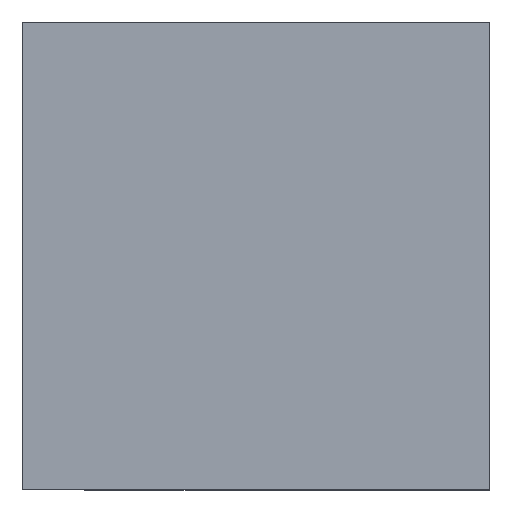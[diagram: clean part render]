
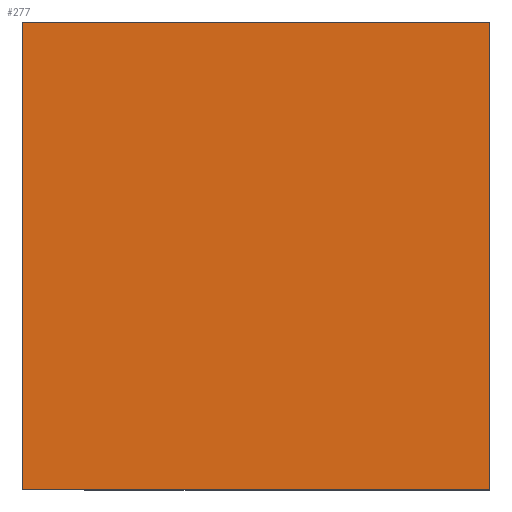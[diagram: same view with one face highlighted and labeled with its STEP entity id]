
A CAD part, top view. The second image highlights one B-rep face of the part: STEP entity #277.
In plain terms, the highlighted planar face has unit normal (0, 0, 1).
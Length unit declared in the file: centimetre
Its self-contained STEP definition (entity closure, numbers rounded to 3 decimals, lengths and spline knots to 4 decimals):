
#1 = CARTESIAN_POINT ( 'NONE',  ( 0., 1000., 1000. ) ) ;
#14 = DIRECTION ( 'NONE',  ( 1., 0., 0. ) ) ;
#60 = VECTOR ( 'NONE', #14, 100. ) ;
#64 = LINE ( 'NONE', #203, #517 ) ;
#109 = LINE ( 'NONE', #292, #60 ) ;
#121 = EDGE_CURVE ( 'NONE', #359, #349, #64, .T. ) ;
#122 = PLANE ( 'NONE',  #205 ) ;
#125 = VERTEX_POINT ( 'NONE', #491 ) ;
#153 = VERTEX_POINT ( 'NONE', #573 ) ;
#184 = LINE ( 'NONE', #283, #206 ) ;
#203 = CARTESIAN_POINT ( 'NONE',  ( 1000., 1000., 1000. ) ) ;
#205 = AXIS2_PLACEMENT_3D ( 'NONE', #497, #356, #260 ) ;
#206 = VECTOR ( 'NONE', #233, 100. ) ;
#207 = EDGE_CURVE ( 'NONE', #125, #359, #109, .T. ) ;
#221 = ORIENTED_EDGE ( 'NONE', *, *, #121, .T. ) ;
#233 = DIRECTION ( 'NONE',  ( 0., -1., 0. ) ) ;
#260 = DIRECTION ( 'NONE',  ( 1., 0., 0. ) ) ;
#277 = ADVANCED_FACE ( 'NONE', ( #289 ), #122, .T. ) ;
#283 = CARTESIAN_POINT ( 'NONE',  ( 0., 1000., 1000. ) ) ;
#289 = FACE_OUTER_BOUND ( 'NONE', #430, .T. ) ;
#292 = CARTESIAN_POINT ( 'NONE',  ( 0., 0., 1000. ) ) ;
#297 = ORIENTED_EDGE ( 'NONE', *, *, #406, .T. ) ;
#303 = ORIENTED_EDGE ( 'NONE', *, *, #207, .T. ) ;
#332 = VECTOR ( 'NONE', #563, 100. ) ;
#349 = VERTEX_POINT ( 'NONE', #400 ) ;
#353 = LINE ( 'NONE', #1, #332 ) ;
#356 = DIRECTION ( 'NONE',  ( 0., 0., 1. ) ) ;
#359 = VERTEX_POINT ( 'NONE', #594 ) ;
#368 = EDGE_CURVE ( 'NONE', #349, #153, #353, .T. ) ;
#400 = CARTESIAN_POINT ( 'NONE',  ( 1000., 1000., 1000. ) ) ;
#406 = EDGE_CURVE ( 'NONE', #153, #125, #184, .T. ) ;
#430 = EDGE_LOOP ( 'NONE', ( #297, #303, #221, #498 ) ) ;
#482 = DIRECTION ( 'NONE',  ( 0., 1., 0. ) ) ;
#491 = CARTESIAN_POINT ( 'NONE',  ( 0., 0., 1000. ) ) ;
#497 = CARTESIAN_POINT ( 'NONE',  ( 0., 0., 1000. ) ) ;
#498 = ORIENTED_EDGE ( 'NONE', *, *, #368, .T. ) ;
#517 = VECTOR ( 'NONE', #482, 100. ) ;
#563 = DIRECTION ( 'NONE',  ( -1., 0., 0. ) ) ;
#573 = CARTESIAN_POINT ( 'NONE',  ( 0., 1000., 1000. ) ) ;
#594 = CARTESIAN_POINT ( 'NONE',  ( 1000., 0., 1000. ) ) ;
